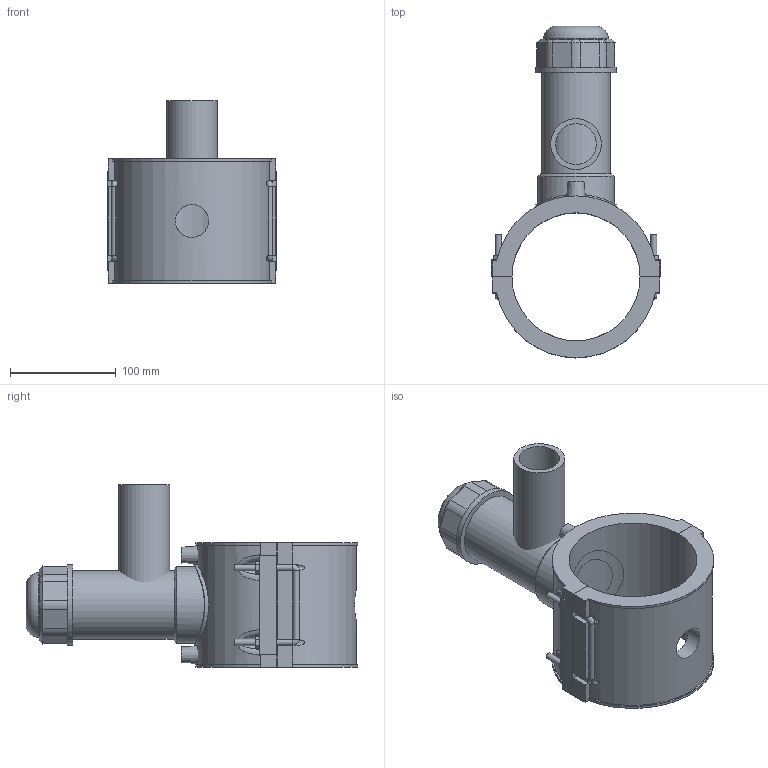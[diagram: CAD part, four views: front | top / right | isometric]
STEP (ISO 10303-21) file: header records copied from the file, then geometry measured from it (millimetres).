
FILE_DESCRIPTION(/* description */ ('PLASSON TAPPING SADDLE 4''''DIPS x 1 1/2''''IPS'),/* implementation_level */ '2;1');
FILE_NAME(/* name */ 'C:\Dropbox\KIMPROJECTS-Inventor 2019\99-16-3568-Processing Inch\ASTM ElectroFusion 2021\5963DBP_5963BUP\5963DBP3040015.ipt.stp',/* time_stamp */ '2021-08-30T09:58:23+03:00',/* author */ ('KIM'),/* organization */ (''),/* preprocessor_version */ 'ST-DEVELOPER v17.2',/* originating_system */ 'Autodesk Inventor 2019',/* authorisation */ '');
FILE_SCHEMA (('AUTOMOTIVE_DESIGN { 1 0 10303 214 3 1 1 }'));
Length unit declared in the file: inch
Products named in the file (1): 5963DBP3040015
Bounding box: 161 x 314.4 x 173.1 mm (x, y, z)
Volume: 1200651.9 mm3; surface area: 238939.9 mm2
Topology: 3 solids, 3 shells, 194 faces, 502 edges, 328 vertices
Faces by surface type: plane 118, cylinder 52, cone 15, bspline 8, torus 1
Full cylindrical faces by diameter (mm): 4 x2, 6 x8, 10 x2, 31.36 x1, 38.48 x1, 48.1 x1, 53.493 x1, 61.135 x1, 64.956 x1, 72.598 x1, 76.419 x2
Entity records: 7083 total; most frequent: CARTESIAN_POINT 2282, ORIENTED_EDGE 1004, DIRECTION 953, EDGE_CURVE 502, VERTEX_POINT 328, AXIS2_PLACEMENT_3D 322, LINE 309, VECTOR 309
